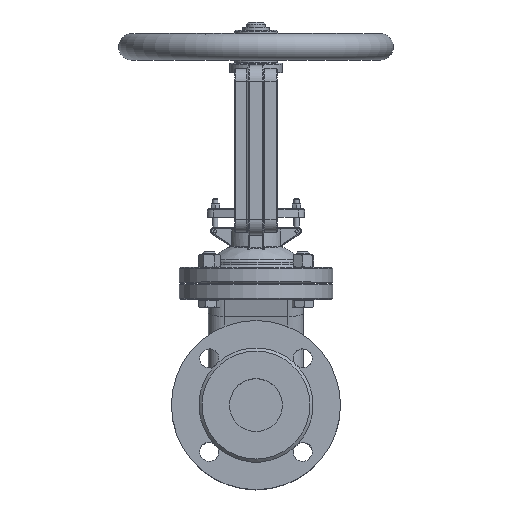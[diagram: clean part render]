
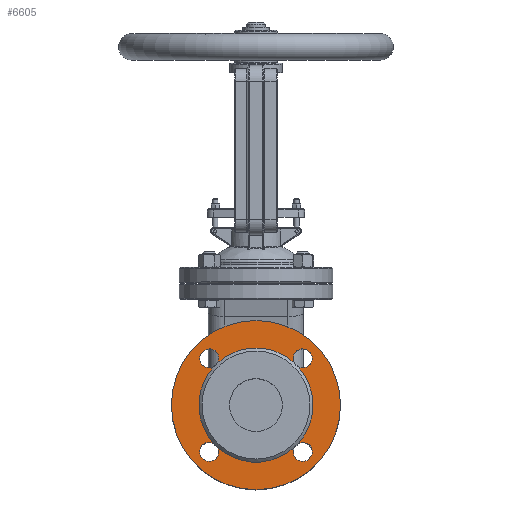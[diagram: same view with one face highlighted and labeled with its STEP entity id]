
A CAD part, top view. The second image highlights one B-rep face of the part: STEP entity #6605.
In plain terms, the highlighted planar face has unit normal (0, 0, 1).
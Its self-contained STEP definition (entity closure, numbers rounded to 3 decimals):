
#6605=ADVANCED_FACE('',(#14894,#14896),#14898,.T.);
#14894=FACE_BOUND('',#14895,.T.);
#14895=EDGE_LOOP('',(#20854));
#14896=FACE_BOUND('',#14897,.T.);
#14897=EDGE_LOOP('',(#20855,#20856,#20857,#20858,#20859,#20860,#20861,#20862,#20863,
#20864,#20865,#20866,#20867));
#14898=PLANE('',#14899);
#14899=AXIS2_PLACEMENT_3D('',#14900,#14901,#14902);
#14900=CARTESIAN_POINT('',(0.,0.,87.));
#14901=DIRECTION('',(0.,0.,1.));
#14902=DIRECTION('',(0.,1.,0.));
#20854=ORIENTED_EDGE('',*,*,#22784,.F.);
#20855=ORIENTED_EDGE('',*,*,#22796,.T.);
#20856=ORIENTED_EDGE('',*,*,#22798,.T.);
#20857=ORIENTED_EDGE('',*,*,#22814,.T.);
#20858=ORIENTED_EDGE('',*,*,#22795,.T.);
#20859=ORIENTED_EDGE('',*,*,#22794,.T.);
#20860=ORIENTED_EDGE('',*,*,#22815,.T.);
#20861=ORIENTED_EDGE('',*,*,#22791,.T.);
#20862=ORIENTED_EDGE('',*,*,#22790,.T.);
#20863=ORIENTED_EDGE('',*,*,#22816,.T.);
#20864=ORIENTED_EDGE('',*,*,#22817,.T.);
#20865=ORIENTED_EDGE('',*,*,#22787,.T.);
#20866=ORIENTED_EDGE('',*,*,#22789,.T.);
#20867=ORIENTED_EDGE('',*,*,#22818,.T.);
#22784=EDGE_CURVE('',#25713,#25713,#25714,.T.);
#22787=EDGE_CURVE('',#25717,#25718,#25719,.F.);
#22789=EDGE_CURVE('',#25718,#25720,#25722,.F.);
#22790=EDGE_CURVE('',#25723,#25724,#25725,.F.);
#22791=EDGE_CURVE('',#25726,#25723,#25727,.F.);
#22794=EDGE_CURVE('',#25732,#25730,#25733,.F.);
#22795=EDGE_CURVE('',#25729,#25732,#25734,.F.);
#22796=EDGE_CURVE('',#25735,#25736,#25737,.F.);
#22798=EDGE_CURVE('',#25736,#25738,#25740,.F.);
#22814=EDGE_CURVE('',#25738,#25729,#25769,.T.);
#22815=EDGE_CURVE('',#25730,#25726,#25770,.T.);
#22816=EDGE_CURVE('',#25724,#25771,#25772,.T.);
#22817=EDGE_CURVE('',#25771,#25717,#25773,.T.);
#22818=EDGE_CURVE('',#25720,#25735,#25774,.T.);
#25713=VERTEX_POINT('',#46363);
#25714=CIRCLE('',#46364,80.);
#25717=VERTEX_POINT('',#46376);
#25718=VERTEX_POINT('',#46377);
#25719=CIRCLE('',#46378,9.);
#25720=VERTEX_POINT('',#46382);
#25722=CIRCLE('',#46387,9.);
#25723=VERTEX_POINT('',#46391);
#25724=VERTEX_POINT('',#46392);
#25725=CIRCLE('',#46393,9.);
#25726=VERTEX_POINT('',#46397);
#25727=CIRCLE('',#46398,9.);
#25729=VERTEX_POINT('',#46406);
#25730=VERTEX_POINT('',#46407);
#25732=VERTEX_POINT('',#46412);
#25733=CIRCLE('',#46413,9.);
#25734=CIRCLE('',#46417,9.);
#25735=VERTEX_POINT('',#46421);
#25736=VERTEX_POINT('',#46422);
#25737=CIRCLE('',#46423,9.);
#25738=VERTEX_POINT('',#46427);
#25740=CIRCLE('',#46432,9.);
#25769=CIRCLE('',#46509,54.);
#25770=CIRCLE('',#46513,54.);
#25771=VERTEX_POINT('',#46517);
#25772=CIRCLE('',#46518,54.);
#25773=CIRCLE('',#46522,54.);
#25774=CIRCLE('',#46526,54.);
#46363=CARTESIAN_POINT('',(0.,80.,87.));
#46364=AXIS2_PLACEMENT_3D('',#46365,#46366,#46367);
#46365=CARTESIAN_POINT('',(0.,0.,87.));
#46366=DIRECTION('',(0.,0.,-1.));
#46367=DIRECTION('',(0.,1.,0.));
#46376=CARTESIAN_POINT('',(36.191,40.078,87.));
#46377=CARTESIAN_POINT('',(53.194,44.194,87.));
#46378=AXIS2_PLACEMENT_3D('',#46379,#46380,#46381);
#46379=CARTESIAN_POINT('',(44.194,44.194,87.));
#46380=DIRECTION('',(0.,0.,1.));
#46381=DIRECTION('',(1.,0.,0.));
#46382=CARTESIAN_POINT('',(40.078,36.191,87.));
#46387=AXIS2_PLACEMENT_3D('',#46388,#46389,#46390);
#46388=CARTESIAN_POINT('',(44.194,44.194,87.));
#46389=DIRECTION('',(0.,0.,1.));
#46390=DIRECTION('',(-0.457,-0.889,0.));
#46391=CARTESIAN_POINT('',(-44.194,53.194,87.));
#46392=CARTESIAN_POINT('',(-36.191,40.078,87.));
#46393=AXIS2_PLACEMENT_3D('',#46394,#46395,#46396);
#46394=CARTESIAN_POINT('',(-44.194,44.194,87.));
#46395=DIRECTION('',(0.,0.,1.));
#46396=DIRECTION('',(0.889,-0.457,0.));
#46397=CARTESIAN_POINT('',(-40.078,36.191,87.));
#46398=AXIS2_PLACEMENT_3D('',#46399,#46400,#46401);
#46399=CARTESIAN_POINT('',(-44.194,44.194,87.));
#46400=DIRECTION('',(0.,0.,1.));
#46401=DIRECTION('',(0.,1.,0.));
#46406=CARTESIAN_POINT('',(-36.191,-40.078,87.));
#46407=CARTESIAN_POINT('',(-40.078,-36.191,87.));
#46412=CARTESIAN_POINT('',(-53.194,-44.194,87.));
#46413=AXIS2_PLACEMENT_3D('',#46414,#46415,#46416);
#46414=CARTESIAN_POINT('',(-44.194,-44.194,87.));
#46415=DIRECTION('',(0.,0.,1.));
#46416=DIRECTION('',(0.457,0.889,0.));
#46417=AXIS2_PLACEMENT_3D('',#46418,#46419,#46420);
#46418=CARTESIAN_POINT('',(-44.194,-44.194,87.));
#46419=DIRECTION('',(0.,0.,1.));
#46420=DIRECTION('',(-1.,0.,0.));
#46421=CARTESIAN_POINT('',(40.078,-36.191,87.));
#46422=CARTESIAN_POINT('',(44.194,-53.194,87.));
#46423=AXIS2_PLACEMENT_3D('',#46424,#46425,#46426);
#46424=CARTESIAN_POINT('',(44.194,-44.194,87.));
#46425=DIRECTION('',(0.,0.,1.));
#46426=DIRECTION('',(0.,-1.,0.));
#46427=CARTESIAN_POINT('',(36.191,-40.078,87.));
#46432=AXIS2_PLACEMENT_3D('',#46433,#46434,#46435);
#46433=CARTESIAN_POINT('',(44.194,-44.194,87.));
#46434=DIRECTION('',(0.,0.,1.));
#46435=DIRECTION('',(-0.889,0.457,0.));
#46509=AXIS2_PLACEMENT_3D('',#46510,#46511,#46512);
#46510=CARTESIAN_POINT('',(0.,0.,87.));
#46511=DIRECTION('',(0.,0.,-1.));
#46512=DIRECTION('',(0.67,-0.742,0.));
#46513=AXIS2_PLACEMENT_3D('',#46514,#46515,#46516);
#46514=CARTESIAN_POINT('',(0.,0.,87.));
#46515=DIRECTION('',(0.,0.,-1.));
#46516=DIRECTION('',(-0.742,-0.67,0.));
#46517=CARTESIAN_POINT('',(0.,54.,87.));
#46518=AXIS2_PLACEMENT_3D('',#46519,#46520,#46521);
#46519=CARTESIAN_POINT('',(0.,0.,87.));
#46520=DIRECTION('',(0.,0.,-1.));
#46521=DIRECTION('',(-0.67,0.742,0.));
#46522=AXIS2_PLACEMENT_3D('',#46523,#46524,#46525);
#46523=CARTESIAN_POINT('',(0.,0.,87.));
#46524=DIRECTION('',(0.,0.,-1.));
#46525=DIRECTION('',(0.,1.,0.));
#46526=AXIS2_PLACEMENT_3D('',#46527,#46528,#46529);
#46527=CARTESIAN_POINT('',(0.,0.,87.));
#46528=DIRECTION('',(0.,0.,-1.));
#46529=DIRECTION('',(0.742,0.67,0.));
